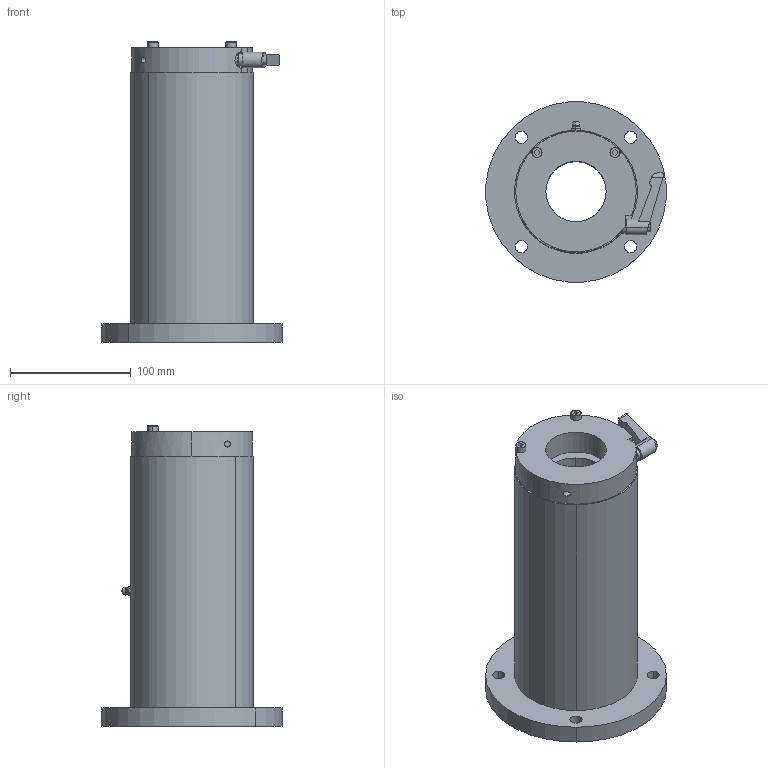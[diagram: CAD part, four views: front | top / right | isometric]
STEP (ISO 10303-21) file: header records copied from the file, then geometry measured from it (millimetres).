
FILE_DESCRIPTION (( 'STEP AP214' ), '1' );
FILE_NAME ('LFW50-OH-CS.STEP', '2023-06-27T02:08:36', ( '' ), ( '' ), 'SwSTEP 2.0', 'SolidWorks 2019', '' );
FILE_SCHEMA (( 'AUTOMOTIVE_DESIGN' ));
Length unit declared in the file: millimetre
Products named in the file (3): “ÁSCK5020SS-S5.5; LFW50-OH-CS; LFW50-OH
Assembly tree (2 placements, depth 2):
  LFW50-OH-CS
    LFW50-OH
    “ÁSCK5020SS-S5.5
Bounding box: 149.43 x 149.43 x 249 mm (x, y, z)
Volume: 1612098.2 mm3; surface area: 192864.4 mm2
Topology: 4 solids, 10 shells, 219 faces, 519 edges, 333 vertices
Faces by surface type: cylinder 81, plane 64, bspline 42, cone 20, torus 8, sphere 4
Entity records: 9414 total; most frequent: CARTESIAN_POINT 2125, DIRECTION 1079, ORIENTED_EDGE 1034, EDGE_CURVE 517, AXIS2_PLACEMENT_3D 444, VERTEX_POINT 332, EDGE_LOOP 267, CIRCLE 262
